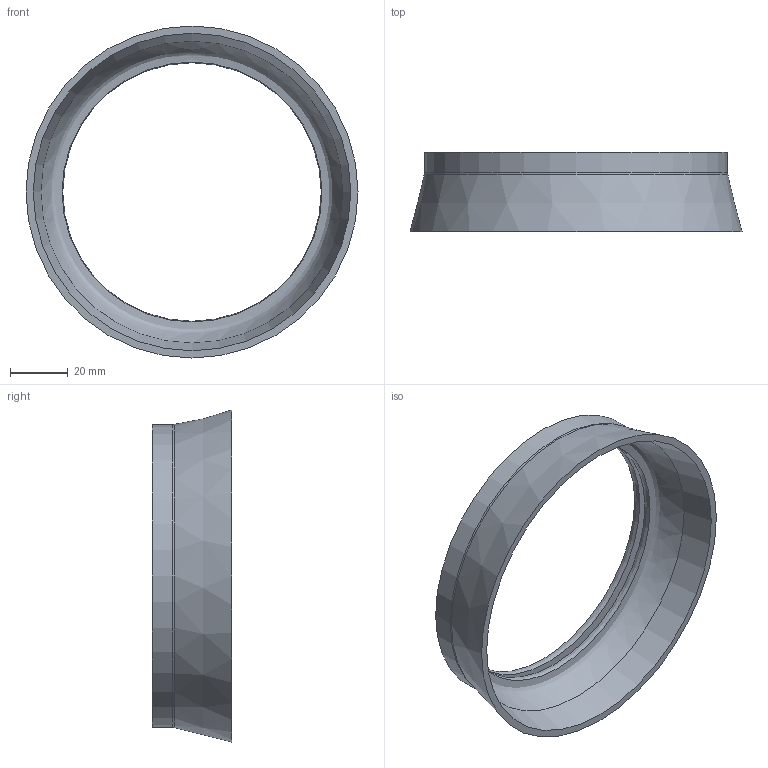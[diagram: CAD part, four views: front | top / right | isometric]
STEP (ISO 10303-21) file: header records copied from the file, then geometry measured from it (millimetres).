
FILE_DESCRIPTION(/* description */ (''),/* implementation_level */ '2;1');
FILE_NAME(/* name */ 'C:/Users/Jarno Laakko/Downloads/3D_Models/KTM_halo_ring.step',/* time_stamp */ '2021-01-19T21:44:43+02:00',/* author */ (''),/* organization */ (''),/* preprocessor_version */ 'ST-DEVELOPER v18.1',/* originating_system */ 'Autodesk Translation Framework v9.7.1.1290',/* authorisation */ '');
FILE_SCHEMA (('AUTOMOTIVE_DESIGN { 1 0 10303 214 3 1 1 }'));
Length unit declared in the file: millimetre
Products named in the file (2): KTM; ktm_rinkula_helmalla
Assembly tree (1 placements, depth 2):
  KTM
    ktm_rinkula_helmalla
Bounding box: 115 x 27.5 x 115 mm (x, y, z)
Volume: 33360.8 mm3; surface area: 25580.4 mm2
Topology: 1 solids, 1 shells, 14 faces, 25 edges, 15 vertices
Faces by surface type: plane 4, torus 3, bspline 3, cylinder 2, cone 2
Full cylindrical faces by diameter (mm): 100 x1, 105 x1
Entity records: 467 total; most frequent: CARTESIAN_POINT 141, DIRECTION 68, ORIENTED_EDGE 50, AXIS2_PLACEMENT_3D 32, EDGE_CURVE 25, EDGE_LOOP 18, CIRCLE 18, VERTEX_POINT 15
